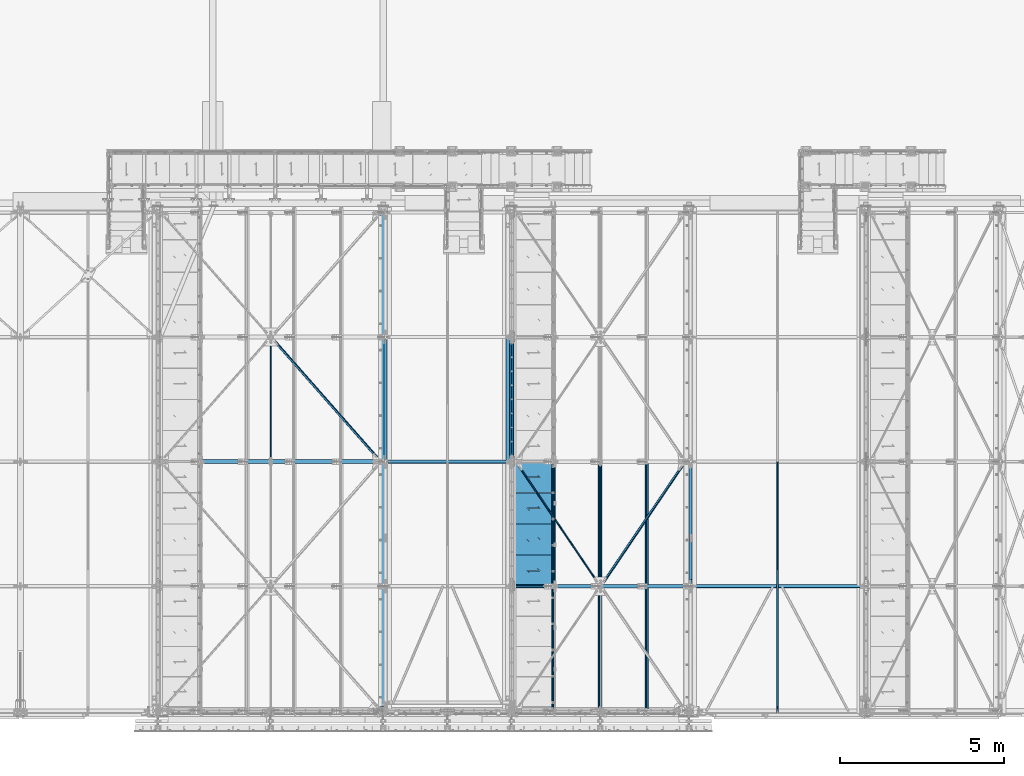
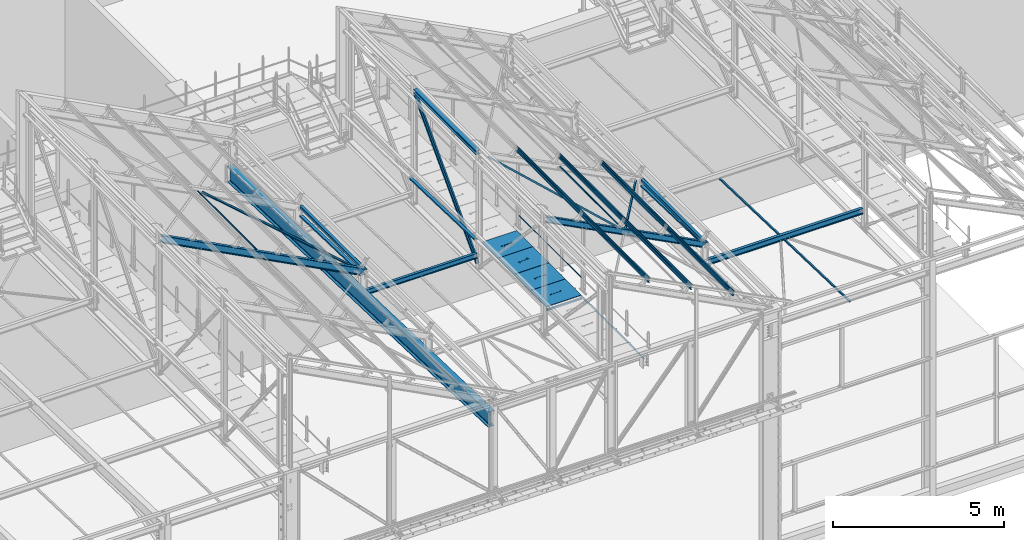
# One storey, part 49 of 362: 25 beams, 4 members, 29 elements without a shape of their own.
"""IFC2X3 building model written with IfcOpenShell, lengths in millimetres."""

from ifc_helpers import new_model, si_unit, frame, origin_with_axes, origin_2d_with_axis, place, context, subcontext, project, spatial, polyline, hollow_rectangle, hollow_circle, i_section, l_section, u_section, outline, extrude, boolean, clip, halfspace, material, type_object, element, aggregate, save


model = new_model("IFC2X3")

# Units and contexts
model_context = context("Model", 3, precision=1e-05, world=origin_with_axes())
body_context = subcontext(model_context, "Body", "Model", "MODEL_VIEW")
ifc_project = project(units=[si_unit("LENGTHUNIT", "METRE", prefix="MILLI"), si_unit("AREAUNIT", "SQUARE_METRE"), si_unit("VOLUMEUNIT", "CUBIC_METRE"), si_unit("MASSUNIT", "GRAM", prefix="KILO"), si_unit("TIMEUNIT", "SECOND"), si_unit("PLANEANGLEUNIT", "RADIAN"), si_unit("SOLIDANGLEUNIT", "STERADIAN"), si_unit("THERMODYNAMICTEMPERATUREUNIT", "DEGREE_CELSIUS"), si_unit("LUMINOUSINTENSITYUNIT", "LUMEN")], contexts=[model_context])

# Site, building, storey
site_placement = place(None, origin_with_axes())
site = spatial("IfcSite", under=ifc_project, at=site_placement, Name="Undefined", CompositionType="ELEMENT")
building_placement = place(site_placement, origin_with_axes())
building = spatial("IfcBuilding", under=site, at=building_placement, Name="Undefined", CompositionType="ELEMENT")
storey_placement = place(building_placement, origin_with_axes())
storey = spatial("IfcBuildingStorey", under=building, at=storey_placement, Name="Undefined", CompositionType="ELEMENT", Elevation=0.0)

# Assembly, beam
assembly_1_placement = place(storey_placement, origin_with_axes())
assembly_1 = element("IfcElementAssembly", 1, at=assembly_1_placement, inside=storey, AssemblyPlace="NOTDEFINED", PredefinedType="NOTDEFINED")
ifc_material_1 = material(Name="Undefined/S235-E24")
beam_type_1 = type_object("IfcBeamType", Name="L50*5", PredefinedType="NOTDEFINED")
beam_1_placement = place(assembly_1_placement, frame((31577.0000126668, -53.9015129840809, 7826.58977123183), z_axis=(1.0, 0.0, 0.0), x_axis=(3.14103090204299e-11, 0.999506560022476, -0.0314107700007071)))
beam_1 = element("IfcBeam", 2, at=beam_1_placement, type_object=beam_type_1, material=ifc_material_1, Name="LIERNE", ObjectType="L50*5", context=body_context, shape_type="SweptSolid", body=[
    extrude(l_section(Depth=50.0, Width=50.0, Thickness=5.0, FilletRadius=7.0, EdgeRadius=3.5, at=origin_2d_with_axis()), frame((7648.75199419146, 0.0, 0.0), z_axis=(-1.0, 0.0, 0.0), x_axis=(0.0, -1.0, 0.0)), (0.0, 0.0, 1.0), 7648.75),
])
aggregate(assembly_1, [beam_1])

assembly_2_placement = place(storey_placement, origin_with_axes())
assembly_2 = element("IfcElementAssembly", 3, at=assembly_2_placement, inside=storey, Name="SUPPORT", AssemblyPlace="NOTDEFINED", PredefinedType="NOTDEFINED")
beam_2_placement = place(assembly_2_placement, frame((24711.491600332, 7595.00000000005, 8075.0), z_axis=(-1.0, 0.0, 0.0), x_axis=(0.0, -1.0, 0.0)))
beam_2 = element("IfcBeam", 4, at=beam_2_placement, type_object=beam_type_1, material=ifc_material_1, Name="SUPPORT", ObjectType="L50*5", context=body_context, shape_type="SweptSolid", body=[
    extrude(l_section(Depth=50.0, Width=50.0, Thickness=5.0, FilletRadius=7.0, EdgeRadius=3.5, at=origin_2d_with_axis()), frame((7469.99982384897, 0.0, 0.0), z_axis=(-1.0, 0.0, 0.0), x_axis=(0.0, -1.0, 0.0)), (0.0, 0.0, 1.0), 7470.0),
])
aggregate(assembly_2, [beam_2])

assembly_3_placement = place(storey_placement, origin_with_axes())
assembly_3 = element("IfcElementAssembly", 5, at=assembly_3_placement, inside=storey, AssemblyPlace="NOTDEFINED", PredefinedType="NOTDEFINED")
beam_type_2 = type_object("IfcBeamType", Name="L60*6", PredefinedType="NOTDEFINED")
beam_3_placement = place(assembly_3_placement, frame((26186.6844467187, 3798.18132236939, 9918.65169565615), z_axis=(0.460093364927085, 0.0, 0.887870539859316), x_axis=(-0.538249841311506, 0.795292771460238, 0.278920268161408)))
beam_3 = element("IfcBeam", 6, at=beam_3_placement, type_object=beam_type_2, material=ifc_material_1, Name="STABILITE CVT", ObjectType="L60*6", context=body_context, shape_type="Clipping", body=[
    clip(clip(extrude(l_section(Depth=60.0, Width=60.0, Thickness=6.0, FilletRadius=8.0, EdgeRadius=4.0, at=origin_2d_with_axis()), frame((4700.97244646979, 6.52390981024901e-13, -1.3047819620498e-13), z_axis=(-1.0, 0.0, 0.0), x_axis=(0.0, -1.0, 0.0)), (0.0, 0.0, 1.0), 4623.83), halfspace(frame((4626.03065655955, -30.0002032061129, -29.9999715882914), z_axis=(-1.0, 0.0, 0.0), x_axis=(0.0, 1.0, 0.0)), True)), halfspace(frame((152.084056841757, 30.000000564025, -29.9999483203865), z_axis=(-1.0, 0.0, 0.0), x_axis=(0.0, 0.0, 1.0)), False)),
])
aggregate(assembly_3, [beam_3])

assembly_4_placement = place(storey_placement, origin_with_axes())
assembly_4 = element("IfcElementAssembly", 7, at=assembly_4_placement, inside=storey, AssemblyPlace="NOTDEFINED", PredefinedType="NOTDEFINED")
beam_4_placement = place(assembly_4_placement, frame((16130.7913096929, 11402.1147636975, 10299.8650296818), z_axis=(0.463528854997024, 6.99999093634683e-09, 0.886081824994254), x_axis=(0.624617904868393, -0.709285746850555, -0.326750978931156)))
beam_4 = element("IfcBeam", 8, at=beam_4_placement, type_object=beam_type_2, material=ifc_material_1, Name="STABILITE CVT", ObjectType="L60*6", context=body_context, shape_type="Clipping", body=[
    clip(clip(extrude(l_section(Depth=60.0, Width=60.0, Thickness=6.0, FilletRadius=8.0, EdgeRadius=4.0, at=origin_2d_with_axis()), frame((5278.55455476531, 2.93018640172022e-13, 0.0), z_axis=(-1.0, 0.0, 0.0), x_axis=(0.0, -1.0, 0.0)), (0.0, 0.0, 1.0), 5199.61), halfspace(frame((5188.72397787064, -29.9999986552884, -29.9999739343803), z_axis=(1.0, 0.0, 0.0), x_axis=(0.0, 0.0, 1.0)), False)), halfspace(frame((168.778056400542, 30.0000013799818, -30.0000003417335), z_axis=(-1.0, 0.0, 0.0), x_axis=(0.0, 0.0, 1.0)), False)),
])
aggregate(assembly_4, [beam_4])

assembly_5_placement = place(storey_placement, origin_with_axes())
assembly_5 = element("IfcElementAssembly", 9, at=assembly_5_placement, inside=storey, AssemblyPlace="NOTDEFINED", PredefinedType="NOTDEFINED")
beam_5_placement = place(assembly_5_placement, frame((28762.7405584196, 7598.18132342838, 8583.74320778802), z_axis=(0.460093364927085, 0.0, 0.887870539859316), x_axis=(-0.53824984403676, -0.795292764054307, 0.278920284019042)))
beam_5 = element("IfcBeam", 10, at=beam_5_placement, type_object=beam_type_2, material=ifc_material_1, Name="STABILITE CVT", ObjectType="L60*6", context=body_context, shape_type="Clipping", body=[
    clip(clip(extrude(l_section(Depth=60.0, Width=60.0, Thickness=6.0, FilletRadius=8.0, EdgeRadius=4.0, at=origin_2d_with_axis()), frame((4708.9125672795, 1.68829082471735e-12, 0.0), z_axis=(-1.0, 0.0, 0.0), x_axis=(0.0, -1.0, 0.0)), (0.0, 0.0, 1.0), 4639.72), halfspace(frame((4626.03053180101, 30.0000051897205, -29.9999470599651), z_axis=(-1.0, 0.0, 0.0), x_axis=(0.0, 0.0, 1.0)), True)), halfspace(frame((152.077978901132, -29.992502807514, -29.9999728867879), z_axis=(1.0, 0.0, 0.0), x_axis=(0.0, 0.0, 1.0)), True)),
])
aggregate(assembly_5, [beam_5])

assembly_6_placement = place(storey_placement, origin_with_axes())
assembly_6 = element("IfcElementAssembly", 11, at=assembly_6_placement, inside=storey, Name="LISSE", AssemblyPlace="NOTDEFINED", PredefinedType="NOTDEFINED")
beam_type_3 = type_object("IfcBeamType", Name="UPF-100*50*4", PredefinedType="NOTDEFINED")
beam_6_placement = place(assembly_6_placement, frame((23353.5001162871, 7602.95853913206, 8291.3293909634), z_axis=(1.0, 0.0, 0.0), x_axis=(0.0, 0.99950644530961, -0.0314144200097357)))
beam_6 = element("IfcBeam", 12, at=beam_6_placement, type_object=beam_type_3, material=ifc_material_1, Name="LISSE CONTREBARDAGE", ObjectType="UPF-100*50*4", context=body_context, shape_type="SweptSolid", body=[
    extrude(u_section(Depth=100.0, FlangeWidth=50.0, WebThickness=4.0, FlangeThickness=4.0, at=origin_2d_with_axis()), frame((3791.87643071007, 0.0, 0.0), z_axis=(-1.0, 0.0, 0.0), x_axis=(0.0, -1.0, 0.0)), (0.0, 0.0, 1.0), 3791.88),
])
aggregate(assembly_6, [beam_6])

assembly_7_placement = place(storey_placement, origin_with_axes())
assembly_7 = element("IfcElementAssembly", 13, at=assembly_7_placement, inside=storey, Name="LISSE", AssemblyPlace="NOTDEFINED", PredefinedType="NOTDEFINED")
beam_7_placement = place(assembly_7_placement, frame((28930.0000000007, 3800.0, 8410.85601504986), z_axis=(1.0, 0.0, 0.0), x_axis=(0.0, 0.99950644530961, -0.0314144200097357)))
beam_7 = element("IfcBeam", 14, at=beam_7_placement, type_object=beam_type_3, material=ifc_material_1, Name="LISSE CONTREBARDAGE", ObjectType="UPF-100*50*4", context=body_context, shape_type="Clipping", body=[
    clip(clip(extrude(u_section(Depth=100.0, FlangeWidth=50.0, WebThickness=4.0, FlangeThickness=4.0, at=origin_2d_with_axis()), frame((3748.43648207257, 2.60100030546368e-14, 0.0), z_axis=(-1.0, 0.0, 0.0), x_axis=(0.0, -1.0, 0.0)), (0.0, 0.0, 1.0), 3546.42), halfspace(frame((3745.8562722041, 31.5941023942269, 54.9999999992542), z_axis=(-0.999506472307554, -0.0314135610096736, 0.0), x_axis=(0.0, 0.0, 1.0)), True)), halfspace(frame((202.484021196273, 35.5224298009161, 54.9999999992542), z_axis=(-0.999506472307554, -0.0314135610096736, 0.0), x_axis=(0.0, 0.0, 1.0)), False)),
])
aggregate(assembly_7, [beam_7])

assembly_8_placement = place(storey_placement, origin_with_axes())
assembly_8 = element("IfcElementAssembly", 15, at=assembly_8_placement, inside=storey, Name="LISSE", AssemblyPlace="NOTDEFINED", PredefinedType="NOTDEFINED")
beam_8_placement = place(assembly_8_placement, frame((19620.0000000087, 7600.0, 8291.42237510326), z_axis=(1.0, 0.0, 0.0), x_axis=(0.0, 0.99950644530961, -0.0314144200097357)))
beam_8 = element("IfcBeam", 16, at=beam_8_placement, type_object=beam_type_3, material=ifc_material_1, Name="LISSE CONTREBARDAGE", ObjectType="UPF-100*50*4", context=body_context, shape_type="Clipping", body=[
    clip(clip(extrude(u_section(Depth=100.0, FlangeWidth=50.0, WebThickness=4.0, FlangeThickness=4.0, at=origin_2d_with_axis()), frame((3738.43154409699, 2.59405798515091e-14, 0.0), z_axis=(-1.0, 0.0, 0.0), x_axis=(0.0, -1.0, 0.0)), (0.0, 0.0, 1.0), 3674.99), halfspace(frame((3731.98221168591, 154.697322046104, 49.9999999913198), z_axis=(-0.999506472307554, -0.0314135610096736, 0.0), x_axis=(0.0, 0.0, 1.0)), True)), halfspace(frame((63.7935542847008, 39.4064997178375, 49.9999999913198), z_axis=(-0.999506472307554, -0.0314135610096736, 0.0), x_axis=(0.0, 0.0, 1.0)), False)),
])
aggregate(assembly_8, [beam_8])

assembly_9_placement = place(storey_placement, origin_with_axes())
assembly_9 = element("IfcElementAssembly", 17, at=assembly_9_placement, inside=storey, Name="LISSE", AssemblyPlace="NOTDEFINED", PredefinedType="NOTDEFINED")
beam_type_4 = type_object("IfcBeamType", Name="TUBE-C-100*100*4", PredefinedType="NOTDEFINED")
beam_9_placement = place(assembly_9_placement, frame((28929.9999999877, 3870.0, 8500.0), z_axis=(0.0, 0.0, 1.0), x_axis=(0.0, 1.0, 0.0)))
beam_9 = element("IfcBeam", 18, at=beam_9_placement, type_object=beam_type_4, material=ifc_material_1, Name="LISSE ACROTERE", ObjectType="TUBE-C-100*100*4", context=body_context, shape_type="SweptSolid", body=[
    extrude(hollow_rectangle(XDim=100.0, YDim=100.0, WallThickness=4.0, InnerFilletRadius=4.0, OuterFilletRadius=8.0, at=origin_2d_with_axis()), frame((3660.0, 0.0, 0.0), z_axis=(-1.0, 0.0, 0.0), x_axis=(0.0, -1.0, 0.0)), (0.0, 0.0, 1.0), 3660.0),
])
aggregate(assembly_9, [beam_9])

assembly_10_placement = place(storey_placement, origin_with_axes())
assembly_10 = element("IfcElementAssembly", 19, at=assembly_10_placement, inside=storey, Name="LISSE", AssemblyPlace="NOTDEFINED", PredefinedType="NOTDEFINED")
beam_10_placement = place(assembly_10_placement, frame((19619.9999999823, 7670.0, 8500.0), z_axis=(0.0, 0.0, 1.0), x_axis=(0.0, 1.0, 0.0)))
beam_10 = element("IfcBeam", 20, at=beam_10_placement, type_object=beam_type_4, material=ifc_material_1, Name="LISSE ACROTERE", ObjectType="TUBE-C-100*100*4", context=body_context, shape_type="SweptSolid", body=[
    extrude(hollow_rectangle(XDim=100.0, YDim=100.0, WallThickness=4.0, InnerFilletRadius=4.0, OuterFilletRadius=8.0, at=origin_2d_with_axis()), frame((3660.0, 0.0, 0.0), z_axis=(-1.0, 0.0, 0.0), x_axis=(0.0, -1.0, 0.0)), (0.0, 0.0, 1.0), 3660.0),
])
aggregate(assembly_10, [beam_10])

assembly_11_placement = place(storey_placement, origin_with_axes())
assembly_11 = element("IfcElementAssembly", 21, at=assembly_11_placement, inside=storey, AssemblyPlace="NOTDEFINED", PredefinedType="NOTDEFINED")
beam_type_5 = type_object("IfcBeamType", Name="TOLE30*940", PredefinedType="NOTDEFINED")
beam_11_placement = place(assembly_11_placement, frame((24726.4915934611, 4745.00015707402, 8115.0), z_axis=(0.0, 0.0, 1.0), x_axis=(-1.0, 0.0, 0.0)))
beam_11 = element("IfcBeam", 22, at=beam_11_placement, type_object=beam_type_5, material=ifc_material_1, Name="CAILLEBOTIS", ObjectType="TOLE30*940", context=body_context, shape_type="CSG", body=[
    boolean("DIFFERENCE", extrude(outline(polyline([(0.0, 0.0), (1179.99169921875, 0.0), (1179.99169921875, 940.0), (-9.39995516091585e-07, 940.0), (0.0, 0.0)])), frame((0.0, 0.0, -15.0), z_axis=(0.0, 0.0, 1.0), x_axis=(1.0, 0.0, 0.0)), (0.0, 0.0, 1.0), 30.0), extrude(outline(polyline([(0.0, 0.0), (9.99999999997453, 6.91215973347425e-11), (10.0000000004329, 75.8578643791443), (282.842712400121, -196.984848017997), (282.842712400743, -96.9848480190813), (272.842712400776, -96.9848480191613), (272.842712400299, -172.842712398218), (0.0, 100.0), (0.0, 0.0)])), frame((724.286946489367, 535.710676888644, -17.5), z_axis=(0.0, 0.0, 1.0), x_axis=(-0.707106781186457, -0.707106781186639, 0.0)), (0.0, 0.0, 1.0), 35.0)),
])
aggregate(assembly_11, [beam_11])

assembly_12_placement = place(storey_placement, origin_with_axes())
assembly_12 = element("IfcElementAssembly", 23, at=assembly_12_placement, inside=storey, AssemblyPlace="NOTDEFINED", PredefinedType="NOTDEFINED")
beam_12_placement = place(assembly_12_placement, frame((24726.4915991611, 5695.00015707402, 8115.0), z_axis=(0.0, 0.0, 1.0), x_axis=(-1.0, 0.0, 0.0)))
beam_12 = element("IfcBeam", 24, at=beam_12_placement, type_object=beam_type_5, material=ifc_material_1, Name="CAILLEBOTIS", ObjectType="TOLE30*940", context=body_context, shape_type="CSG", body=[
    boolean("DIFFERENCE", extrude(outline(polyline([(0.0, 0.0), (1179.99169921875, 0.0), (1179.99169921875, 940.0), (-9.39995516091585e-07, 940.0), (0.0, 0.0)])), frame((0.0, 0.0, -15.0), z_axis=(0.0, 0.0, 1.0), x_axis=(1.0, 0.0, 0.0)), (0.0, 0.0, 1.0), 30.0), extrude(outline(polyline([(0.0, 0.0), (9.99999999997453, 6.91215973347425e-11), (10.0000000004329, 75.8578643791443), (282.842712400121, -196.984848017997), (282.842712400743, -96.9848480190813), (272.842712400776, -96.9848480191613), (272.842712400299, -172.842712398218), (0.0, 100.0), (0.0, 0.0)])), frame((724.286946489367, 535.710676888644, -17.5), z_axis=(0.0, 0.0, 1.0), x_axis=(-0.707106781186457, -0.707106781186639, 0.0)), (0.0, 0.0, 1.0), 35.0)),
])
aggregate(assembly_12, [beam_12])

assembly_13_placement = place(storey_placement, origin_with_axes())
assembly_13 = element("IfcElementAssembly", 25, at=assembly_13_placement, inside=storey, AssemblyPlace="NOTDEFINED", PredefinedType="NOTDEFINED")
beam_13_placement = place(assembly_13_placement, frame((24726.4916048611, 6645.00015707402, 8115.0), z_axis=(0.0, 0.0, 1.0), x_axis=(-1.0, 0.0, 0.0)))
beam_13 = element("IfcBeam", 26, at=beam_13_placement, type_object=beam_type_5, material=ifc_material_1, Name="CAILLEBOTIS", ObjectType="TOLE30*940", context=body_context, shape_type="CSG", body=[
    boolean("DIFFERENCE", extrude(outline(polyline([(0.0, 0.0), (1179.99169921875, 0.0), (1179.99169921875, 940.0), (-9.39995516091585e-07, 940.0), (0.0, 0.0)])), frame((0.0, 0.0, -15.0), z_axis=(0.0, 0.0, 1.0), x_axis=(1.0, 0.0, 0.0)), (0.0, 0.0, 1.0), 30.0), extrude(outline(polyline([(0.0, 0.0), (9.99999999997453, 6.91215973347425e-11), (10.0000000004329, 75.8578643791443), (282.842712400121, -196.984848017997), (282.842712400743, -96.9848480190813), (272.842712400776, -96.9848480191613), (272.842712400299, -172.842712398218), (0.0, 100.0), (0.0, 0.0)])), frame((724.286946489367, 535.710676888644, -17.5), z_axis=(0.0, 0.0, 1.0), x_axis=(-0.707106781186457, -0.707106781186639, 0.0)), (0.0, 0.0, 1.0), 35.0)),
])
aggregate(assembly_13, [beam_13])

assembly_14_placement = place(storey_placement, origin_with_axes())
assembly_14 = element("IfcElementAssembly", 27, at=assembly_14_placement, inside=storey, AssemblyPlace="NOTDEFINED", PredefinedType="NOTDEFINED")
beam_14_placement = place(assembly_14_placement, frame((24726.4916105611, 7595.00016184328, 8115.0), z_axis=(0.0, 0.0, 1.0), x_axis=(-1.0, 0.0, 0.0)))
beam_14 = element("IfcBeam", 28, at=beam_14_placement, type_object=beam_type_5, material=ifc_material_1, Name="CAILLEBOTIS", ObjectType="TOLE30*940", context=body_context, shape_type="CSG", body=[
    boolean("DIFFERENCE", extrude(outline(polyline([(0.0, 0.0), (1179.99169921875, 0.0), (1179.99169921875, 940.0), (-9.39995516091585e-07, 940.0), (0.0, 0.0)])), frame((0.0, 0.0, -15.0), z_axis=(0.0, 0.0, 1.0), x_axis=(1.0, 0.0, 0.0)), (0.0, 0.0, 1.0), 30.0), extrude(outline(polyline([(0.0, 0.0), (9.99999999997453, 6.91215973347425e-11), (10.0000000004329, 75.8578643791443), (282.842712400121, -196.984848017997), (282.842712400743, -96.9848480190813), (272.842712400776, -96.9848480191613), (272.842712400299, -172.842712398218), (0.0, 100.0), (0.0, 0.0)])), frame((724.286946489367, 535.710676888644, -17.5), z_axis=(0.0, 0.0, 1.0), x_axis=(-0.707106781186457, -0.707106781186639, 0.0)), (0.0, 0.0, 1.0), 35.0)),
])
aggregate(assembly_14, [beam_14])

assembly_15_placement = place(storey_placement, origin_with_axes())
assembly_15 = element("IfcElementAssembly", 29, at=assembly_15_placement, inside=storey, Name="MAIN COURANTE", AssemblyPlace="NOTDEFINED", PredefinedType="NOTDEFINED")
beam_type_6 = type_object("IfcBeamType", Name="TUBE-26.9*2", PredefinedType="NOTDEFINED")
beam_15_placement = place(assembly_15_placement, frame((24783.9916033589, 7545.00000183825, 8673.80000207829), z_axis=(0.0, 0.0, 1.0), x_axis=(0.0, -1.0, 0.0)))
beam_15 = element("IfcBeam", 30, at=beam_15_placement, type_object=beam_type_6, material=ifc_material_1, Name="LISSE", ObjectType="TUBE-26.9*2", context=body_context, shape_type="SweptSolid", body=[
    extrude(hollow_circle(Radius=13.44999981, WallThickness=2.0, at=origin_2d_with_axis()), frame((3690.00000000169, 3.69000323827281e-24, 0.0), z_axis=(-1.0, 0.0, 0.0), x_axis=(0.0, -1.0, 0.0)), (0.0, 0.0, 1.0), 3690.0),
])
aggregate(assembly_15, [beam_15])

assembly_16_placement = place(storey_placement, origin_with_axes())
assembly_16 = element("IfcElementAssembly", 31, at=assembly_16_placement, inside=storey, AssemblyPlace="NOTDEFINED", PredefinedType="NOTDEFINED")
beam_type_7 = type_object("IfcBeamType", Name="TUBE-C-40*40*4", PredefinedType="NOTDEFINED")
beam_16_placement = place(assembly_16_placement, frame((26184.2061471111, 7580.00015091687, 9908.67304438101), z_axis=(-0.887870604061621, -1.29999898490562e-08, 0.460093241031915), x_axis=(-8.13000000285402e-07, -0.999999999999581, 4.20999999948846e-07)))
beam_16 = element("IfcBeam", 32, at=beam_16_placement, type_object=beam_type_7, material=ifc_material_1, Name="BUTON", ObjectType="TUBE-C-40*40*4", context=body_context, shape_type="SweptSolid", body=[
    extrude(hollow_rectangle(XDim=40.0, YDim=40.0, WallThickness=4.0, InnerFilletRadius=4.0, OuterFilletRadius=8.0, at=origin_2d_with_axis()), frame((3700.00150276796, -3.63797900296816e-12, -3.9175289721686e-19), z_axis=(-1.0, 0.0, 0.0), x_axis=(0.0, -1.0, 0.0)), (0.0, 0.0, 1.0), 3700.0),
])
aggregate(assembly_16, [beam_16])

assembly_17_placement = place(storey_placement, origin_with_axes())
assembly_17 = element("IfcElementAssembly", 33, at=assembly_17_placement, inside=storey, AssemblyPlace="NOTDEFINED", PredefinedType="NOTDEFINED")
beam_17_placement = place(assembly_17_placement, frame((16124.270567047, 11320.0015957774, 10291.9905320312), z_axis=(-0.886082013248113, 9.38091927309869e-07, 0.463528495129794), x_axis=(0.0, -1.0, 0.0)))
beam_17 = element("IfcBeam", 34, at=beam_17_placement, type_object=beam_type_7, material=ifc_material_1, Name="BUTON", ObjectType="TUBE-C-40*40*4", context=body_context, shape_type="SweptSolid", body=[
    extrude(hollow_rectangle(XDim=40.0, YDim=40.0, WallThickness=4.0, InnerFilletRadius=4.0, OuterFilletRadius=8.0, at=origin_2d_with_axis()), frame((3700.00159576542, -3.63797880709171e-12, -3.63797880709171e-12), z_axis=(-1.0, 0.0, 0.0), x_axis=(0.0, -1.0, 0.0)), (0.0, 0.0, 1.0), 3700.0),
])
aggregate(assembly_17, [beam_17])

assembly_18_placement = place(storey_placement, origin_with_axes())
assembly_18 = element("IfcElementAssembly", 35, at=assembly_18_placement, inside=storey, AssemblyPlace="NOTDEFINED", PredefinedType="NOTDEFINED")
ifc_material_2 = material(Name="Undefined/S275-E28")
beam_type_8 = type_object("IfcBeamType", Name="HEA140", PredefinedType="NOTDEFINED")
beam_18_placement = place(assembly_18_placement, frame((23473.5, 11325.0, 11302.5), z_axis=(0.0, 0.0, 1.0), x_axis=(0.0, -1.0, 0.0)))
beam_18 = element("IfcBeam", 36, at=beam_18_placement, type_object=beam_type_8, material=ifc_material_2, Name="LONGERON", ObjectType="HEA140", context=body_context, shape_type="SweptSolid", body=[
    extrude(i_section(OverallWidth=140.0, OverallDepth=133.0, WebThickness=5.5, FlangeThickness=8.5, FilletRadius=12.0, at=origin_2d_with_axis()), frame((3650.0, 0.0, 0.0), z_axis=(-1.0, 0.0, 0.0), x_axis=(0.0, -1.0, 0.0)), (0.0, 0.0, 1.0), 3650.0),
])
aggregate(assembly_18, [beam_18])

assembly_19_placement = place(storey_placement, origin_with_axes())
assembly_19 = element("IfcElementAssembly", 37, at=assembly_19_placement, inside=storey, Name="PANNE SHED", AssemblyPlace="NOTDEFINED", PredefinedType="NOTDEFINED")
beam_type_9 = type_object("IfcBeamType", Name="B140/150", PredefinedType="NOTDEFINED")
beam_19_placement = place(assembly_19_placement, frame((27591.6811463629, -154.999920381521, 9562.26025581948), z_axis=(0.460093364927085, 0.0, 0.887870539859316), x_axis=(0.0, 1.0, 0.0)))
beam_19 = element("IfcBeam", 38, at=beam_19_placement, type_object=beam_type_9, material=ifc_material_1, Name="PANNE SHED", ObjectType="B140/150", context=body_context, shape_type="SweptSolid", body=[
    extrude(outline(polyline([(-27.9999999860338, 36.0000000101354), (-27.999999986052, 70.0000000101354), (28.0000000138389, 70.0000000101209), (28.0000000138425, 58.0000000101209), (26.5000000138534, 58.0000000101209), (26.5000000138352, 68.5000000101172), (-26.4999999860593, 68.5000000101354), (-26.4999999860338, 36.7000007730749), (-1.49999998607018, 15.6999998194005), (-1.49999998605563, -15.6999997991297), (-26.4999999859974, -36.7000007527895), (-26.4999999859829, -68.49999998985), (26.5000000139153, -68.4999999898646), (26.500000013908, -57.9999999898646), (28.0000000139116, -57.9999999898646), (28.0000000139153, -69.9999999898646), (-27.9999999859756, -69.99999998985), (-27.9999999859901, -35.99999998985), (-2.99999998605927, -14.9999999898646), (-2.9999999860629, 15.0000000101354), (-27.9999999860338, 36.0000000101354)])), frame((7750.00000000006, -3.63797880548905e-12, 0.0), z_axis=(-1.0, 0.0, 0.0), x_axis=(0.0, -1.0, 0.0)), (0.0, 0.0, 1.0), 7750.0),
])
aggregate(assembly_19, [beam_19])

assembly_20_placement = place(storey_placement, origin_with_axes())
assembly_20 = element("IfcElementAssembly", 39, at=assembly_20_placement, inside=storey, Name="PANNE SHED", AssemblyPlace="NOTDEFINED", PredefinedType="NOTDEFINED")
beam_20_placement = place(assembly_20_placement, frame((26165.0561453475, -154.999920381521, 10301.5352320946), z_axis=(0.460093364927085, 0.0, 0.887870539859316), x_axis=(0.0, 1.0, 0.0)))
beam_20 = element("IfcBeam", 40, at=beam_20_placement, type_object=beam_type_9, material=ifc_material_1, Name="PANNE SHED", ObjectType="B140/150", context=body_context, shape_type="SweptSolid", body=[
    extrude(outline(polyline([(-27.9999999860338, 36.0000000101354), (-27.999999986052, 70.0000000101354), (28.0000000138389, 70.0000000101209), (28.0000000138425, 58.0000000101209), (26.5000000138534, 58.0000000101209), (26.5000000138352, 68.5000000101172), (-26.4999999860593, 68.5000000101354), (-26.4999999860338, 36.7000007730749), (-1.49999998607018, 15.6999998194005), (-1.49999998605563, -15.6999997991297), (-26.4999999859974, -36.7000007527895), (-26.4999999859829, -68.49999998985), (26.5000000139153, -68.4999999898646), (26.500000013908, -57.9999999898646), (28.0000000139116, -57.9999999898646), (28.0000000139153, -69.9999999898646), (-27.9999999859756, -69.99999998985), (-27.9999999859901, -35.99999998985), (-2.99999998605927, -14.9999999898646), (-2.9999999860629, 15.0000000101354), (-27.9999999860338, 36.0000000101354)])), frame((7750.00000000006, -3.63797880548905e-12, 0.0), z_axis=(-1.0, 0.0, 0.0), x_axis=(0.0, -1.0, 0.0)), (0.0, 0.0, 1.0), 7750.0),
])
aggregate(assembly_20, [beam_20])

assembly_21_placement = place(storey_placement, origin_with_axes())
assembly_21 = element("IfcElementAssembly", 41, at=assembly_21_placement, inside=storey, Name="PANNE SHED", AssemblyPlace="NOTDEFINED", PredefinedType="NOTDEFINED")
beam_21_placement = place(assembly_21_placement, frame((24738.4311443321, -154.999920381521, 11040.8102083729), z_axis=(0.460093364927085, 0.0, 0.887870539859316), x_axis=(0.0, 1.0, 0.0)))
beam_21 = element("IfcBeam", 42, at=beam_21_placement, type_object=beam_type_9, material=ifc_material_1, Name="PANNE SHED", ObjectType="B140/150", context=body_context, shape_type="SweptSolid", body=[
    extrude(outline(polyline([(-27.9999999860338, 36.0000000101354), (-27.999999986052, 70.0000000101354), (28.0000000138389, 70.0000000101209), (28.0000000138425, 58.0000000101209), (26.5000000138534, 58.0000000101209), (26.5000000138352, 68.5000000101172), (-26.4999999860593, 68.5000000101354), (-26.4999999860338, 36.7000007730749), (-1.49999998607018, 15.6999998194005), (-1.49999998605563, -15.6999997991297), (-26.4999999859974, -36.7000007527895), (-26.4999999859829, -68.49999998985), (26.5000000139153, -68.4999999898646), (26.500000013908, -57.9999999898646), (28.0000000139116, -57.9999999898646), (28.0000000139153, -69.9999999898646), (-27.9999999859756, -69.99999998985), (-27.9999999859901, -35.99999998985), (-2.99999998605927, -14.9999999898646), (-2.9999999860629, 15.0000000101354), (-27.9999999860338, 36.0000000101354)])), frame((7750.00000000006, -3.63797880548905e-12, 0.0), z_axis=(-1.0, 0.0, 0.0), x_axis=(0.0, -1.0, 0.0)), (0.0, 0.0, 1.0), 7750.0),
])
aggregate(assembly_21, [beam_21])

# Assembly, member
assembly_22_placement = place(storey_placement, origin_with_axes())
assembly_22 = element("IfcElementAssembly", 43, at=assembly_22_placement, inside=storey, AssemblyPlace="NOTDEFINED", PredefinedType="NOTDEFINED")
member_type_1 = type_object("IfcMemberType", Name="UPN80", PredefinedType="NOTDEFINED")
member_1_placement = place(assembly_22_placement, frame((23497.4999999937, 7599.99999999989, 7250.0), z_axis=(0.0, -0.723792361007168, 0.69001783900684), x_axis=(0.0, 0.690017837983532, 0.723792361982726)))
member_1 = element("IfcMember", 44, at=member_1_placement, type_object=member_type_1, material=ifc_material_2, Name="DIAGONALE", ObjectType="UPN80", context=body_context, shape_type="Clipping", body=[
    clip(clip(extrude(u_section(Depth=80.0, FlangeWidth=45.0, WebThickness=6.0, FlangeThickness=8.0, FilletRadius=8.0, EdgeRadius=4.0, FlangeSlope=0.0798299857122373, at=origin_2d_with_axis()), frame((5467.81196900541, 0.0, 0.0), z_axis=(-1.0, 0.0, 0.0), x_axis=(0.0, -1.0, 0.0)), (0.0, 0.0, 1.0), 5428.52), halfspace(frame((5387.10413923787, 27.5000000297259, 39.9999976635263), z_axis=(1.0, 0.0, 0.0), x_axis=(0.0, 1.0, 0.0)), False)), halfspace(frame((119.999999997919, 27.49999999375, -39.9999989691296), z_axis=(-1.0, 0.0, 0.0), x_axis=(0.0, 1.0, 0.0)), False)),
])
aggregate(assembly_22, [member_1])

assembly_23_placement = place(storey_placement, origin_with_axes())
assembly_23 = element("IfcElementAssembly", 45, at=assembly_23_placement, inside=storey, AssemblyPlace="NOTDEFINED", PredefinedType="NOTDEFINED")
member_2_placement = place(assembly_23_placement, frame((23442.5000000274, 11400.0000003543, 11235.9999997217), z_axis=(0.0, -0.723792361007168, 0.69001783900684), x_axis=(0.0, -0.69001783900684, -0.723792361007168)))
member_2 = element("IfcMember", 46, at=member_2_placement, type_object=member_type_1, material=ifc_material_2, Name="DIAGONALE", ObjectType="UPN80", context=body_context, shape_type="Clipping", body=[
    clip(clip(extrude(u_section(Depth=80.0, FlangeWidth=45.0, WebThickness=6.0, FlangeThickness=8.0, FilletRadius=8.0, EdgeRadius=4.0, FlangeSlope=0.0798299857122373, at=origin_2d_with_axis()), frame((5467.81196900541, 0.0, 0.0), z_axis=(-1.0, 0.0, 0.0), x_axis=(0.0, -1.0, 0.0)), (0.0, 0.0, 1.0), 5428.52), halfspace(frame((5387.10413924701, 27.4999999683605, -40.0000000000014), z_axis=(1.0, 0.0, 0.0), x_axis=(0.0, -1.0, 0.0)), False)), halfspace(frame((119.999999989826, 27.5000000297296, 39.9999985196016), z_axis=(-1.0, 0.0, 0.0), x_axis=(0.0, -1.0, 0.0)), False)),
])
aggregate(assembly_23, [member_2])

# Assembly, beam
assembly_24_placement = place(storey_placement, origin_with_axes())
assembly_24 = element("IfcElementAssembly", 47, at=assembly_24_placement, inside=storey, AssemblyPlace="NOTDEFINED", PredefinedType="NOTDEFINED")
beam_type_10 = type_object("IfcBeamType", Name="TUBE-C-60*60*3", PredefinedType="NOTDEFINED")
beam_22_placement = place(assembly_24_placement, frame((23547.9918295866, 3800.0, 8015.0), z_axis=(0.0, -1.0, 0.0), x_axis=(1.0, 0.0, 0.0)))
beam_22 = element("IfcBeam", 48, at=beam_22_placement, type_object=beam_type_10, material=ifc_material_1, Name="SOLIVE", ObjectType="TUBE-C-60*60*3", context=body_context, shape_type="SweptSolid", body=[
    extrude(hollow_rectangle(XDim=60.0, YDim=60.0, WallThickness=3.0, InnerFilletRadius=3.0, OuterFilletRadius=6.0, at=origin_2d_with_axis()), frame((1181.99977105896, 0.0, 0.0), z_axis=(-1.0, 0.0, 0.0), x_axis=(0.0, -1.0, 0.0)), (0.0, 0.0, 1.0), 1182.0),
])
aggregate(assembly_24, [beam_22])

# Assembly, member
assembly_25_placement = place(storey_placement, origin_with_axes())
assembly_25 = element("IfcElementAssembly", 49, at=assembly_25_placement, inside=storey, Name="TRAVERSE SHED", AssemblyPlace="NOTDEFINED", PredefinedType="NOTDEFINED")
member_type_2 = type_object("IfcMemberType", Name="IPE200", PredefinedType="NOTDEFINED")
member_3_placement = place(assembly_25_placement, frame((23493.9906758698, 3799.99999999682, 11280.2129396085), z_axis=(0.460093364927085, 0.0, 0.887870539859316), x_axis=(0.887870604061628, 0.0, -0.460093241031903)))
member_3 = element("IfcMember", 50, at=member_3_placement, type_object=member_type_2, material=ifc_material_2, Name="TRAVERSE SHED", ObjectType="IPE200", context=body_context, shape_type="Clipping", body=[
    clip(clip(extrude(i_section(OverallWidth=100.0, OverallDepth=200.0, WebThickness=5.599999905, FlangeThickness=8.5, FilletRadius=12.0, at=origin_2d_with_axis()), frame((6236.48041099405, -1.81898940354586e-12, 0.0), z_axis=(-1.0, 0.0, 0.0), x_axis=(0.0, -1.0, 0.0)), (0.0, 0.0, 1.0), 6347.61), halfspace(frame((6005.40058860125, 3.18323145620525e-09, -99.9999999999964), z_axis=(0.854427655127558, 0.0, -0.519570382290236), x_axis=(0.0, -1.0, 0.0)), False)), halfspace(frame((5.77115893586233, 3.18409305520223e-09, 102.990606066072), z_axis=(-0.887870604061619, 0.0, -0.46009324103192), x_axis=(0.0, -1.0, 0.0)), False)),
])
aggregate(assembly_25, [member_3])

assembly_26_placement = place(storey_placement, origin_with_axes())
assembly_26 = element("IfcElementAssembly", 51, at=assembly_26_placement, inside=storey, Name="TRAVERSE SHED", AssemblyPlace="NOTDEFINED", PredefinedType="NOTDEFINED")
member_type_3 = type_object("IfcMemberType", Name="IPE240", PredefinedType="NOTDEFINED")
member_4_placement = place(assembly_26_placement, frame((12694.3765846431, 7599.99999999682, 12063.6701562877), z_axis=(0.463528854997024, 6.99999093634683e-09, 0.886081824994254), x_axis=(0.886081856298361, 3.500000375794e-08, -0.463528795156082)))
member_4 = element("IfcMember", 52, at=member_4_placement, type_object=member_type_3, material=ifc_material_2, Name="TRAVERSE SHED", ObjectType="IPE240", context=body_context, shape_type="Clipping", body=[
    clip(clip(extrude(i_section(OverallWidth=120.0, OverallDepth=240.0, WebThickness=6.199999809, FlangeThickness=9.800000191, FilletRadius=15.0, at=origin_2d_with_axis()), frame((7941.81660004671, -4.54747350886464e-13, 4.40859382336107e-13), z_axis=(-1.0, 0.0, 0.0), x_axis=(0.0, -1.0, 0.0)), (0.0, 0.0, 1.0), 8076.52), halfspace(frame((7809.66068490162, -3799.99999999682, 119.999998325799), z_axis=(-0.855432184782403, 0.0, 0.51791483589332), x_axis=(0.0, -1.0, 0.0)), True)), halfspace(frame((5.75953323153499, 3.18157252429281e-09, 123.012934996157), z_axis=(-0.886082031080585, 0.0, -0.463528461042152), x_axis=(0.0, -1.0, 0.0)), False)),
])
aggregate(assembly_26, [member_4])

# Assembly, beam
assembly_27_placement = place(storey_placement, origin_with_axes())
assembly_27 = element("IfcElementAssembly", 53, at=assembly_27_placement, inside=storey, AssemblyPlace="NOTDEFINED", PredefinedType="NOTDEFINED")
beam_type_11 = type_object("IfcBeamType", Name="IPE200", PredefinedType="NOTDEFINED")
beam_23_placement = place(assembly_27_placement, frame((28989.9999999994, 3799.99999998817, 7830.53220712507), z_axis=(7.58071938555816e-11, 0.0314107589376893, 0.999506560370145), x_axis=(1.0, 0.0, 0.0)))
beam_23 = element("IfcBeam", 54, at=beam_23_placement, type_object=beam_type_11, material=ifc_material_2, Name="PANNE", ObjectType="IPE200", context=body_context, shape_type="SweptSolid", body=[
    extrude(i_section(OverallWidth=100.0, OverallDepth=200.0, WebThickness=5.599999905, FlangeThickness=8.5, FilletRadius=12.0, at=origin_2d_with_axis()), frame((5213.49999999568, 0.0, 0.0), z_axis=(-1.0, 0.0, 0.0), x_axis=(0.0, -1.0, 0.0)), (0.0, 0.0, 1.0), 5213.5),
])
aggregate(assembly_27, [beam_23])

assembly_28_placement = place(storey_placement, origin_with_axes())
assembly_28 = element("IfcElementAssembly", 55, at=assembly_28_placement, inside=storey, AssemblyPlace="NOTDEFINED", PredefinedType="NOTDEFINED")
beam_type_12 = type_object("IfcBeamType", Name="IPE180", PredefinedType="NOTDEFINED")
beam_24_placement = place(assembly_28_placement, frame((19659.9999999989, 7599.99999998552, 7721.11590289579), z_axis=(7.58071938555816e-11, 0.0314107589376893, 0.999506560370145), x_axis=(1.0, 0.0, 0.0)))
beam_24 = element("IfcBeam", 56, at=beam_24_placement, type_object=beam_type_12, material=ifc_material_2, Name="PANNE", ObjectType="IPE180", context=body_context, shape_type="SweptSolid", body=[
    extrude(i_section(OverallWidth=91.0, OverallDepth=180.0, WebThickness=5.300000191, FlangeThickness=8.0, FilletRadius=9.0, at=origin_2d_with_axis()), frame((3733.49999999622, 0.0, 0.0), z_axis=(-1.0, 0.0, 0.0), x_axis=(0.0, -1.0, 0.0)), (0.0, 0.0, 1.0), 3733.5),
])
aggregate(assembly_28, [beam_24])

assembly_29_placement = place(storey_placement, origin_with_axes())
assembly_29 = element("IfcElementAssembly", 57, at=assembly_29_placement, inside=storey, Name="TRAVERSE", AssemblyPlace="NOTDEFINED", PredefinedType="NOTDEFINED")
beam_type_13 = type_object("IfcBeamType", Name="IPE550", PredefinedType="NOTDEFINED")
beam_25_placement = place(assembly_29_placement, frame((19550.0000000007, -8.63795872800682, 7775.13569589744), z_axis=(-1.05403257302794e-09, -0.0314112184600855, -0.999506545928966), x_axis=(3.14103090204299e-11, 0.999506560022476, -0.0314107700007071)))
beam_25 = element("IfcBeam", 58, at=beam_25_placement, type_object=beam_type_13, material=ifc_material_2, Name="TRAVERSE", ObjectType="IPE550", context=body_context, shape_type="Clipping", body=[
    clip(clip(extrude(i_section(OverallWidth=210.0, OverallDepth=550.0, WebThickness=11.10000038, FlangeThickness=17.20000076, FilletRadius=24.0, at=origin_2d_with_axis()), frame((15397.5977849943, 0.0, 0.0), z_axis=(-1.0, 0.0, 0.0), x_axis=(0.0, -1.0, 0.0)), (0.0, 0.0, 1.0), 15397.6), halfspace(frame((110.024691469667, 105.0, -275.942322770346), z_axis=(-0.999506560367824, 0.0, 0.0314107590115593), x_axis=(0.0314107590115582, 0.0, 0.999506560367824)), False)), halfspace(frame((15357.5780376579, -105.0, -275.0), z_axis=(0.999506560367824, 0.0, -0.0314107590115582), x_axis=(0.0314107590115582, 0.0, 0.999506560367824)), False)),
])
aggregate(assembly_29, [beam_25])

save(model, "model.ifc")
